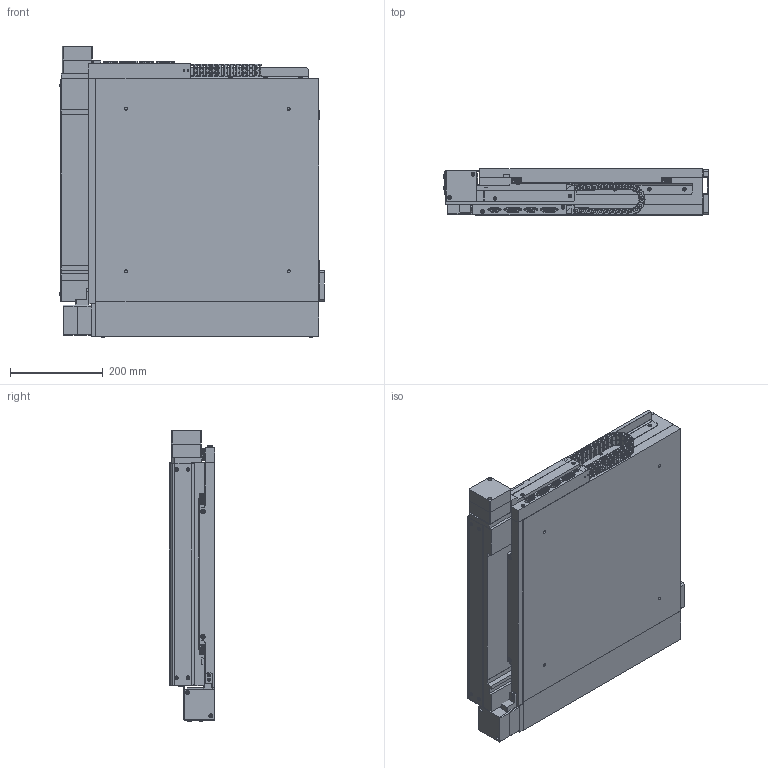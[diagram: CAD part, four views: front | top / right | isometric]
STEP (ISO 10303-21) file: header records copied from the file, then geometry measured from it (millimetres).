
FILE_DESCRIPTION (( 'STEP AP214' ), '1' );
FILE_NAME ('GXY-360-Linear Encoder-EXPORT.STEP', '2025-07-08T14:03:03', ( 'lab' ), ( '' ), 'SwSTEP 2.0', 'SolidWorks 2018', '' );
FILE_SCHEMA (( 'AUTOMOTIVE_DESIGN' ));
Length unit declared in the file: millimetre
Products named in the file (15): 1000008; 1000003_file_export4; 1000010; 1000002_360; 1000011; 1000005; 1000001_360; 1000014_file_export49; 1000009_91239A109; 1000006_file_export15; 1000004_file_export6; 1000007_file_export7; GXY-360-Linear Encoder-EXPORT; 1000013_file_export21; 1000012_file_export22
Assembly tree (56 placements, depth 2):
  GXY-360-Linear Encoder-EXPORT
    1000001_360
    1000002_360
    1000003_file_export4
    1000004_file_export6  x2
    1000005  x2
    1000006_file_export15  x6
    1000007_file_export7
    1000008
    1000009_91239A109  x4
    1000010
    1000011  x24
    1000012_file_export22  x2
    1000013_file_export21  x2
    1000014_file_export49  x8
Bounding box: 570.15 x 99 x 628.14 mm (x, y, z)
Volume: 27962944.3 mm3; surface area: 2709469.9 mm2
Topology: 172 solids, 172 shells, 6277 faces, 15500 edges, 9733 vertices
Faces by surface type: plane 3791, cylinder 1732, cone 384, bspline 340, torus 30
Entity records: 93591 total; most frequent: CARTESIAN_POINT 20054, DIRECTION 13657, ORIENTED_EDGE 13124, EDGE_CURVE 6562, AXIS2_PLACEMENT_3D 4613, LINE 4431, VECTOR 4431, VERTEX_POINT 4050
